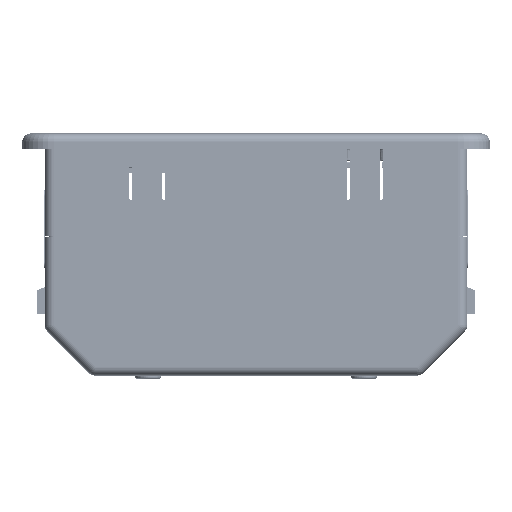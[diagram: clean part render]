
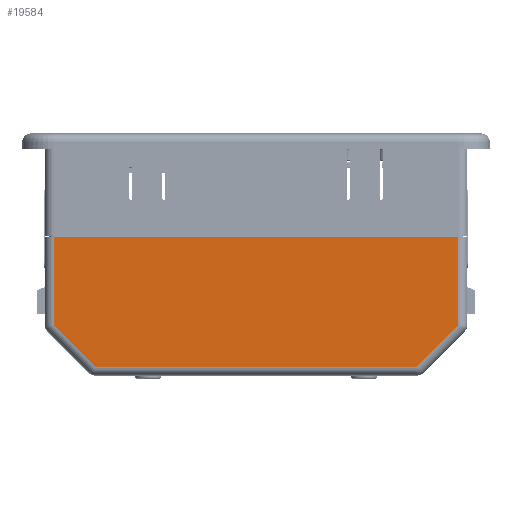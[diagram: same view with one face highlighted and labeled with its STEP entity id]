
A CAD part, left-side view. The second image highlights one B-rep face of the part: STEP entity #19584.
In plain terms, the highlighted planar face has unit normal (-1, 0, 0).
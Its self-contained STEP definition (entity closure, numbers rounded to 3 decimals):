
#8058 = LINE ( 'NONE', #12327, #235902 ) ;
#12327 = CARTESIAN_POINT ( 'NONE',  ( -70., 44.629, -85.829 ) ) ;
#19584 = ADVANCED_FACE ( 'NONE', ( #189151 ), #1035211, .F. ) ;
#47704 = EDGE_CURVE ( 'NONE', #441766, #729730, #8058, .T. ) ;
#48933 = EDGE_CURVE ( 'NONE', #291185, #441766, #489742, .T. ) ;
#55016 = ORIENTED_EDGE ( 'NONE', *, *, #646461, .T. ) ;
#85004 = VERTEX_POINT ( 'NONE', #577716 ) ;
#98385 = EDGE_CURVE ( 'NONE', #729730, #1120799, #726301, .T. ) ;
#117232 = EDGE_CURVE ( 'NONE', #291185, #85004, #1162628, .T. ) ;
#142382 = ORIENTED_EDGE ( 'NONE', *, *, #1105998, .T. ) ;
#176067 = ORIENTED_EDGE ( 'NONE', *, *, #47704, .T. ) ;
#189151 = FACE_OUTER_BOUND ( 'NONE', #1096140, .T. ) ;
#199996 = DIRECTION ( 'NONE',  ( 0., 0., 1. ) ) ;
#208324 = CARTESIAN_POINT ( 'NONE',  ( -70., -54.5, -77.2 ) ) ;
#208706 = CARTESIAN_POINT ( 'NONE',  ( -70., 67., -64.7 ) ) ;
#223617 = LINE ( 'NONE', #707560, #1225942 ) ;
#231609 = VECTOR ( 'NONE', #794301, 1000. ) ;
#235902 = VECTOR ( 'NONE', #788943, 1000. ) ;
#267119 = CARTESIAN_POINT ( 'NONE',  ( -70., 39., -80.2 ) ) ;
#291185 = VERTEX_POINT ( 'NONE', #1228347 ) ;
#364728 = DIRECTION ( 'NONE',  ( 0., -1., 0. ) ) ;
#399334 = DIRECTION ( 'NONE',  ( 0., -1., 0. ) ) ;
#418972 = DIRECTION ( 'NONE',  ( 0., -0.707, 0.707 ) ) ;
#441766 = VERTEX_POINT ( 'NONE', #542199 ) ;
#489742 = LINE ( 'NONE', #208706, #231609 ) ;
#542199 = CARTESIAN_POINT ( 'NONE',  ( -70., 67., -63.457 ) ) ;
#557090 = ORIENTED_EDGE ( 'NONE', *, *, #98385, .T. ) ;
#577716 = CARTESIAN_POINT ( 'NONE',  ( -70., -67., -34.2 ) ) ;
#586428 = CARTESIAN_POINT ( 'NONE',  ( -70., -67., -63.457 ) ) ;
#646461 = EDGE_CURVE ( 'NONE', #901963, #85004, #679627, .T. ) ;
#649295 = VECTOR ( 'NONE', #199996, 1000. ) ;
#679627 = LINE ( 'NONE', #879054, #649295 ) ;
#707560 = CARTESIAN_POINT ( 'NONE',  ( -70., -5.629, -124.829 ) ) ;
#726301 = LINE ( 'NONE', #208324, #984266 ) ;
#729730 = VERTEX_POINT ( 'NONE', #859095 ) ;
#788943 = DIRECTION ( 'NONE',  ( 0., -0.707, -0.707 ) ) ;
#794301 = DIRECTION ( 'NONE',  ( 0., 0., -1. ) ) ;
#859095 = CARTESIAN_POINT ( 'NONE',  ( -70., 53.257, -77.2 ) ) ;
#879054 = CARTESIAN_POINT ( 'NONE',  ( -70., -67., -37.2 ) ) ;
#886303 = CARTESIAN_POINT ( 'NONE',  ( -70., -53.257, -77.2 ) ) ;
#901963 = VERTEX_POINT ( 'NONE', #586428 ) ;
#920087 = DIRECTION ( 'NONE',  ( 0., -1., 0. ) ) ;
#937472 = AXIS2_PLACEMENT_3D ( 'NONE', #267119, #946057, #364728 ) ;
#937961 = ORIENTED_EDGE ( 'NONE', *, *, #117232, .F. ) ;
#946057 = DIRECTION ( 'NONE',  ( 1., 0., 0. ) ) ;
#984266 = VECTOR ( 'NONE', #399334, 1000. ) ;
#987225 = ORIENTED_EDGE ( 'NONE', *, *, #48933, .T. ) ;
#1035211 = PLANE ( 'NONE',  #937472 ) ;
#1096140 = EDGE_LOOP ( 'NONE', ( #142382, #55016, #937961, #987225, #176067, #557090 ) ) ;
#1101619 = VECTOR ( 'NONE', #920087, 1000. ) ;
#1105998 = EDGE_CURVE ( 'NONE', #1120799, #901963, #223617, .T. ) ;
#1120799 = VERTEX_POINT ( 'NONE', #886303 ) ;
#1162628 = LINE ( 'NONE', #1204619, #1101619 ) ;
#1204619 = CARTESIAN_POINT ( 'NONE',  ( -70., 67., -34.2 ) ) ;
#1225942 = VECTOR ( 'NONE', #418972, 1000. ) ;
#1228347 = CARTESIAN_POINT ( 'NONE',  ( -70., 67., -34.2 ) ) ;
